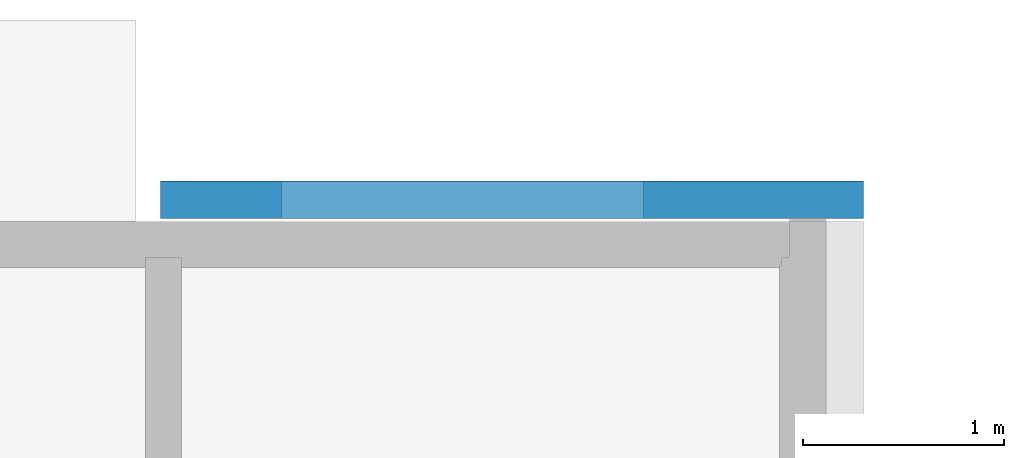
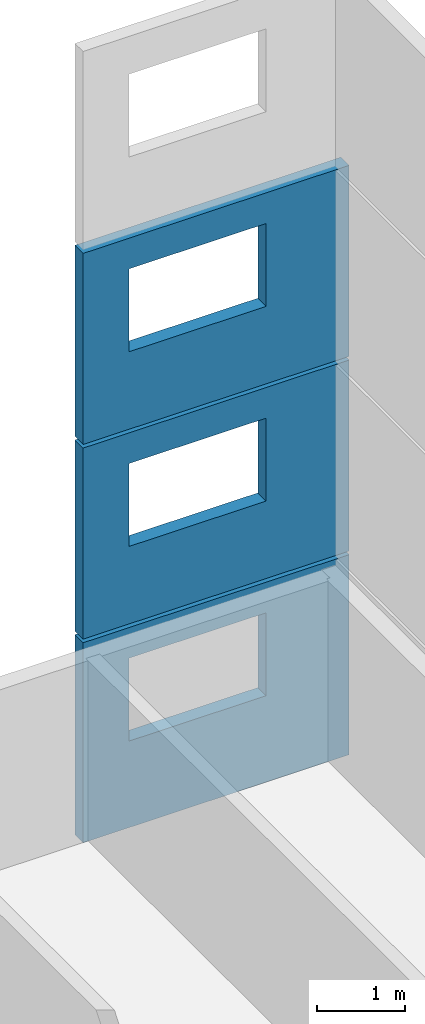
# One storey, part 15 of 15: 3 walls, 3 openings.
"""IFC2X3 building model written with IfcOpenShell, lengths in metres."""

import ifcopenshell
import ifcopenshell.guid

model = None  # the IFC model being written
_history = None  # IfcOwnerHistory: only IFC2X3 demands one
_inside = {}  # id of a spatial element -> (the spatial element, [elements in it])
_under = {}  # id of a project, library or spatial element -> (it, [spatial elements below it])
_declared = {}  # id of a project -> (the project, [libraries it declares])
_typed = {}  # id of a type object -> (the type object, [elements of that type])
_made_of = {}  # id of a material, layer set ... -> (it, [elements and type objects made of it])


def new_model(schema):
    """Start an empty IFC model of exactly this schema.

    Asked for "IFC4X3", IfcOpenShell would pick the latest addendum, in which some entities
    have other attributes; the version numbers below select the first issue.
    IFC2X3 requires an IfcOwnerHistory on every rooted entity: one is made here for all.
    """
    global model, _history
    if schema == "IFC4X3":
        model = ifcopenshell.file(schema_version=(4, 3, 0, 0))
    else:
        model = ifcopenshell.file(schema=schema)
    _inside.clear()
    _under.clear()
    _declared.clear()
    _typed.clear()
    _made_of.clear()
    _history = None
    if model.schema == "IFC2X3":
        org = make("IfcOrganization", Name="unknown")
        user = make(
            "IfcPersonAndOrganization",
            ThePerson=make("IfcPerson", FamilyName="unknown"),
            TheOrganization=org,
        )
        app = make(
            "IfcApplication",
            ApplicationDeveloper=org,
            Version="unknown",
            ApplicationFullName="unknown",
            ApplicationIdentifier="unknown",
        )
        _history = make(
            "IfcOwnerHistory",
            OwningUser=user,
            OwningApplication=app,
            ChangeAction="ADDED",
            CreationDate=0,
        )
    return model


def make(cls, **values):
    """One entity of the class cls with the attributes given. An attribute that is None is left unset."""
    return model.create_entity(
        cls, **{name: value for name, value in values.items() if value is not None}
    )


def rooted(cls, **values):
    """An entity with a GlobalId (a new one), such as an element, a storey or a relation."""
    return make(cls, GlobalId=ifcopenshell.guid.new(), OwnerHistory=_history, **values)


def si_unit(unit_type, name, prefix=None):
    """IfcSIUnit, for example si_unit("LENGTHUNIT", "METRE", prefix="MILLI")."""
    return make("IfcSIUnit", UnitType=unit_type, Prefix=prefix, Name=name)


def assignment(units):
    """IfcUnitAssignment: the units of a project."""
    return None if units is None else make("IfcUnitAssignment", Units=units)


def point(xyz):
    """IfcCartesianPoint."""
    return None if xyz is None else make("IfcCartesianPoint", Coordinates=xyz)


def direction(xyz):
    """IfcDirection."""
    return None if xyz is None else make("IfcDirection", DirectionRatios=xyz)


def frame(location, z_axis=None, x_axis=None):
    """IfcAxis2Placement3D, a coordinate frame: its origin and axes. An axis left out is left unset."""
    return make(
        "IfcAxis2Placement3D",
        Location=point(location),
        Axis=direction(z_axis),
        RefDirection=direction(x_axis),
    )


def origin():
    """The frame at (0, 0, 0) with its axes left unset."""
    return frame((0.0, 0.0, 0.0))


def place(relative_to, where):
    """IfcLocalPlacement: puts the frame where relative to a parent placement (None: the world)."""
    return make(
        "IfcLocalPlacement", PlacementRelTo=relative_to, RelativePlacement=where
    )


def context(
    kind, dimensions, precision=None, world=None, true_north=None, identifier=None
):
    """IfcGeometricRepresentationContext, for example the 3D "Model" context."""
    return make(
        "IfcGeometricRepresentationContext",
        ContextIdentifier=identifier,
        ContextType=kind,
        CoordinateSpaceDimension=dimensions,
        Precision=precision,
        WorldCoordinateSystem=world,
        TrueNorth=true_north,
    )


def project(units=None, contexts=None):
    """IfcProject with its units and contexts."""
    return rooted(
        "IfcProject",
        Name="project",
        RepresentationContexts=contexts,
        UnitsInContext=assignment(units),
    )


def spatial(cls, under=None, at=None, **own):
    """A site, building, storey or space (cls), placed at a placement, below another one or the project."""
    s = rooted(cls, ObjectPlacement=at, **own)
    if under is not None:
        _under.setdefault(under.id(), (under, []))[1].append(s)
    return s


def faces_of(points, faces, orient=None, outer=None):
    """IfcFace entities. A face is a list of loops; a loop is a list of indices into points, from 0.

    orient and outer hold one flag for each loop. By default every Orientation is true, the
    first loop of a face is its IfcFaceOuterBound and the others are IfcFaceBound.
    """
    made = []
    for i, loops in enumerate(faces):
        bounds = []
        for j, loop in enumerate(loops):
            is_outer = j == 0 if outer is None else outer[i][j]
            bounds.append(
                make(
                    "IfcFaceOuterBound" if is_outer else "IfcFaceBound",
                    Bound=make("IfcPolyLoop", Polygon=[points[k] for k in loop]),
                    Orientation=True if orient is None else orient[i][j],
                )
            )
        made.append(make("IfcFace", Bounds=bounds))
    return made


def faceted_brep(points, faces, orient=None, outer=None, voids=None):
    """IfcFacetedBrep: a solid bounded by flat faces; with voids (closed shells), ...WithVoids."""
    shared = [point(p) for p in points]
    hull = make("IfcClosedShell", CfsFaces=faces_of(shared, faces, orient, outer))
    if voids is None:
        return make("IfcFacetedBrep", Outer=hull)
    return make(
        "IfcFacetedBrepWithVoids",
        Outer=hull,
        Voids=[
            make(cls, CfsFaces=faces_of(shared, fs, o, b)) for cls, fs, o, b in voids
        ],
    )


def shape(context_of_items, identifier, shape_type, items):
    """IfcShapeRepresentation: the items that make up one representation, for example the "Body"."""
    return make(
        "IfcShapeRepresentation",
        ContextOfItems=context_of_items,
        RepresentationIdentifier=identifier,
        RepresentationType=shape_type,
        Items=items,
    )


def made_of(thing, what):
    """Note that an element or type object is made of a material, layer set ...; save() writes the relation."""
    if what is not None:
        _made_of.setdefault(what.id(), (what, []))[1].append(thing)
    return thing


def element(
    cls,
    number,
    at=None,
    inside=None,
    cuts=None,
    type_object=None,
    material=None,
    context=None,
    identifier="Body",
    shape_type=None,
    held_by="IfcProductDefinitionShape",
    body=None,
    shapes=None,
    **own,
):
    """One element of the class cls, such as IfcWall. Its Tag is "e" and its number.

    at: its placement. inside: the storey or other place that contains it. cuts: it is an
    opening in that element (IfcRelVoidsElement). A single representation is given by context,
    identifier, shape_type and body (its items); several are given by shapes. held_by: the class
    of the entity that holds the representations. save() writes the other relations.
    """
    e = rooted(cls, Tag="e%d" % number, ObjectPlacement=at, **own)
    if body is not None:
        shapes = [shape(context, identifier, shape_type, body)]
    if shapes is not None:
        e.Representation = make(held_by, Representations=shapes)
    if inside is not None:
        _inside.setdefault(inside.id(), (inside, []))[1].append(e)
    if cuts is not None:
        rooted(
            "IfcRelVoidsElement", RelatingBuildingElement=cuts, RelatedOpeningElement=e
        )
    if type_object is not None:
        _typed.setdefault(type_object.id(), (type_object, []))[1].append(e)
    return made_of(e, material)


def aggregate(whole, parts):
    """IfcRelAggregates: a whole, such as a stair, and the parts it consists of."""
    return rooted("IfcRelAggregates", RelatingObject=whole, RelatedObjects=parts)


def save(model, path):
    """Write the relations noted so far, then the file.

    IfcRelAggregates (storeys below a building ...), IfcRelContainedInSpatialStructure (elements
    in a storey), IfcRelDefinesByType, IfcRelAssociatesMaterial and IfcRelDeclares: one each for
    every whole, place, type object, material and project.
    """
    for whole, parts in _under.values():
        aggregate(whole, parts)
    for where, things in _inside.values():
        rooted(
            "IfcRelContainedInSpatialStructure",
            RelatedElements=things,
            RelatingStructure=where,
        )
    for kind, things in _typed.values():
        rooted("IfcRelDefinesByType", RelatedObjects=things, RelatingType=kind)
    for what, things in _made_of.values():
        rooted("IfcRelAssociatesMaterial", RelatedObjects=things, RelatingMaterial=what)
    for by, libraries in _declared.values():
        rooted("IfcRelDeclares", RelatingContext=by, RelatedDefinitions=libraries)
    model.write(path)


model = new_model("IFC2X3")

# Units and contexts
model_context = context("Model", 3, precision=1e-06, world=origin())
ifc_project = project(units=[si_unit("LENGTHUNIT", "METRE"), si_unit("PLANEANGLEUNIT", "RADIAN")], contexts=[model_context])

# Site, building, storey
site = spatial("IfcSite", under=ifc_project, CompositionType="ELEMENT")
building = spatial("IfcBuilding", under=site, CompositionType="ELEMENT")
storey = spatial("IfcBuildingStorey", under=building, Name="rdc", CompositionType="ELEMENT", Elevation=0.0)

# Wall, opening
placement = place(None, origin())
wall_1_placement = place(placement, frame((36.39540136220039, 10.483077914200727, 2.625), z_axis=(0.0, 0.0, 1.0), x_axis=(1.0, 0.0, 0.0)))
wall_1 = element("IfcWall", 1, at=wall_1_placement, inside=storey, context=model_context, shape_type="Brep", body=[
    faceted_brep([(0.0, 0.0, 2.65), (0.0, 0.187, 2.65), (0.0, 0.187, 0.0), (0.0, 0.0, 0.0), (0.0, 0.187, 2.65), (3.491597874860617, 0.187, 2.65), (3.491597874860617, 0.187, 0.0), (0.0, 0.187, 0.0), (3.491597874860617, 0.187, 2.65), (3.491597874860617, 0.0, 2.65), (3.491597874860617, 0.0, 0.0), (3.491597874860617, 0.187, 0.0), (3.491597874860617, 0.0, 2.65), (0.0, 0.0, 2.65), (0.0, 0.0, 0.0), (3.491597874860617, 0.0, 0.0), (0.0, 0.0, 2.65), (3.491597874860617, 0.0, 2.65), (3.491597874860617, 0.187, 2.65), (0.0, 0.187, 2.65), (0.0, 0.0, 0.0), (0.0, 0.187, 0.0), (3.491597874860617, 0.187, 0.0), (3.491597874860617, 0.0, 0.0)], [[[0, 1, 2, 3]], [[4, 5, 6, 7]], [[8, 9, 10, 11]], [[12, 13, 14, 15]], [[16, 17, 18, 19]], [[20, 21, 22, 23]]]),
])
opening_1_placement = place(placement, frame((38.79540136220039, 10.670077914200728, 3.7), z_axis=(0.0, 0.0, 1.0), x_axis=(-1.0, 0.0, 0.0)))
element("IfcOpeningElement", 2, at=opening_1_placement, cuts=wall_1, Name="Opening", context=model_context, shape_type="Brep", body=[
    faceted_brep([(0.0, 0.187, 0.0), (1.8, 0.187, 0.0), (1.8, 0.0, 0.0), (0.0, 0.0, 0.0), (1.8, 0.0, 1.15), (1.8, 0.187, 1.15), (0.0, 0.187, 1.15), (0.0, 0.0, 1.15), (0.0, 0.187, 0.0), (0.0, 0.0, 0.0), (0.0, 0.0, 1.15), (0.0, 0.187, 1.15), (1.8, 0.187, 0.0), (0.0, 0.187, 0.0), (0.0, 0.187, 1.15), (1.8, 0.187, 1.15), (1.8, 0.0, 0.0), (1.8, 0.187, 0.0), (1.8, 0.187, 1.15), (1.8, 0.0, 1.15), (0.0, 0.0, 0.0), (1.8, 0.0, 0.0), (1.8, 0.0, 1.15), (0.0, 0.0, 1.15)], [[[0, 1, 2, 3]], [[4, 5, 6, 7]], [[8, 9, 10, 11]], [[12, 13, 14, 15]], [[16, 17, 18, 19]], [[20, 21, 22, 23]]]),
])

wall_2_placement = place(placement, frame((36.39540136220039, 10.483077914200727, 5.325000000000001), z_axis=(0.0, 0.0, 1.0), x_axis=(1.0, 0.0, 0.0)))
wall_2 = element("IfcWall", 3, at=wall_2_placement, inside=storey, context=model_context, shape_type="Brep", body=[
    faceted_brep([(0.0, 0.0, 2.65), (0.0, 0.187, 2.65), (0.0, 0.187, 0.0), (0.0, 0.0, 0.0), (0.0, 0.187, 2.65), (3.491597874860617, 0.187, 2.65), (3.491597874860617, 0.187, 0.0), (0.0, 0.187, 0.0), (3.491597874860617, 0.187, 2.65), (3.491597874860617, 0.0, 2.65), (3.491597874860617, 0.0, 0.0), (3.491597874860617, 0.187, 0.0), (3.491597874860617, 0.0, 2.65), (0.0, 0.0, 2.65), (0.0, 0.0, 0.0), (3.491597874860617, 0.0, 0.0), (0.0, 0.0, 2.65), (3.491597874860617, 0.0, 2.65), (3.491597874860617, 0.187, 2.65), (0.0, 0.187, 2.65), (0.0, 0.0, 0.0), (0.0, 0.187, 0.0), (3.491597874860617, 0.187, 0.0), (3.491597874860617, 0.0, 0.0)], [[[0, 1, 2, 3]], [[4, 5, 6, 7]], [[8, 9, 10, 11]], [[12, 13, 14, 15]], [[16, 17, 18, 19]], [[20, 21, 22, 23]]]),
])
opening_2_placement = place(placement, frame((38.79540136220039, 10.670077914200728, 6.4), z_axis=(0.0, 0.0, 1.0), x_axis=(-1.0, 0.0, 0.0)))
element("IfcOpeningElement", 4, at=opening_2_placement, cuts=wall_2, Name="Opening", context=model_context, shape_type="Brep", body=[
    faceted_brep([(0.0, 0.187, 0.0), (1.8, 0.187, 0.0), (1.8, 0.0, 0.0), (0.0, 0.0, 0.0), (1.8, 0.0, 1.15), (1.8, 0.187, 1.15), (0.0, 0.187, 1.15), (0.0, 0.0, 1.15), (0.0, 0.187, 0.0), (0.0, 0.0, 0.0), (0.0, 0.0, 1.15), (0.0, 0.187, 1.15), (1.8, 0.187, 0.0), (0.0, 0.187, 0.0), (0.0, 0.187, 1.15), (1.8, 0.187, 1.15), (1.8, 0.0, 0.0), (1.8, 0.187, 0.0), (1.8, 0.187, 1.15), (1.8, 0.0, 1.15), (0.0, 0.0, 0.0), (1.8, 0.0, 0.0), (1.8, 0.0, 1.15), (0.0, 0.0, 1.15)], [[[0, 1, 2, 3]], [[4, 5, 6, 7]], [[8, 9, 10, 11]], [[12, 13, 14, 15]], [[16, 17, 18, 19]], [[20, 21, 22, 23]]]),
])

wall_3_placement = place(placement, frame((36.39540136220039, 10.483077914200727, -0.2), z_axis=(0.0, 0.0, 1.0), x_axis=(1.0, 0.0, 0.0)))
wall_3 = element("IfcWall", 5, at=wall_3_placement, inside=storey, context=model_context, shape_type="Brep", body=[
    faceted_brep([(0.0, 0.0, 2.775), (0.0, 0.187, 2.775), (0.0, 0.187, 0.0), (0.0, 0.0, 0.0), (0.0, 0.187, 2.775), (3.491597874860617, 0.187, 2.775), (3.491597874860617, 0.187, 0.0), (0.0, 0.187, 0.0), (3.491597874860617, 0.187, 2.775), (3.491597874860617, 0.0, 2.775), (3.491597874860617, 0.0, 0.0), (3.491597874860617, 0.187, 0.0), (3.491597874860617, 0.0, 2.775), (0.0, 0.0, 2.775), (0.0, 0.0, 0.0), (3.491597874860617, 0.0, 0.0), (0.0, 0.0, 2.775), (3.491597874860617, 0.0, 2.775), (3.491597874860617, 0.187, 2.775), (0.0, 0.187, 2.775), (0.0, 0.0, 0.0), (0.0, 0.187, 0.0), (3.491597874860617, 0.187, 0.0), (3.491597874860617, 0.0, 0.0)], [[[0, 1, 2, 3]], [[4, 5, 6, 7]], [[8, 9, 10, 11]], [[12, 13, 14, 15]], [[16, 17, 18, 19]], [[20, 21, 22, 23]]]),
])
opening_3_placement = place(placement, frame((38.79540136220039, 10.670077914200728, 1.0), z_axis=(0.0, 0.0, 1.0), x_axis=(-1.0, 0.0, 0.0)))
element("IfcOpeningElement", 6, at=opening_3_placement, cuts=wall_3, Name="Opening", context=model_context, shape_type="Brep", body=[
    faceted_brep([(0.0, 0.187, 0.0), (1.8, 0.187, 0.0), (1.8, 0.0, 0.0), (0.0, 0.0, 0.0), (1.8, 0.0, 1.15), (1.8, 0.187, 1.15), (0.0, 0.187, 1.15), (0.0, 0.0, 1.15), (0.0, 0.187, 0.0), (0.0, 0.0, 0.0), (0.0, 0.0, 1.15), (0.0, 0.187, 1.15), (1.8, 0.187, 0.0), (0.0, 0.187, 0.0), (0.0, 0.187, 1.15), (1.8, 0.187, 1.15), (1.8, 0.0, 0.0), (1.8, 0.187, 0.0), (1.8, 0.187, 1.15), (1.8, 0.0, 1.15), (0.0, 0.0, 0.0), (1.8, 0.0, 0.0), (1.8, 0.0, 1.15), (0.0, 0.0, 1.15)], [[[0, 1, 2, 3]], [[4, 5, 6, 7]], [[8, 9, 10, 11]], [[12, 13, 14, 15]], [[16, 17, 18, 19]], [[20, 21, 22, 23]]]),
])

save(model, "model.ifc")
